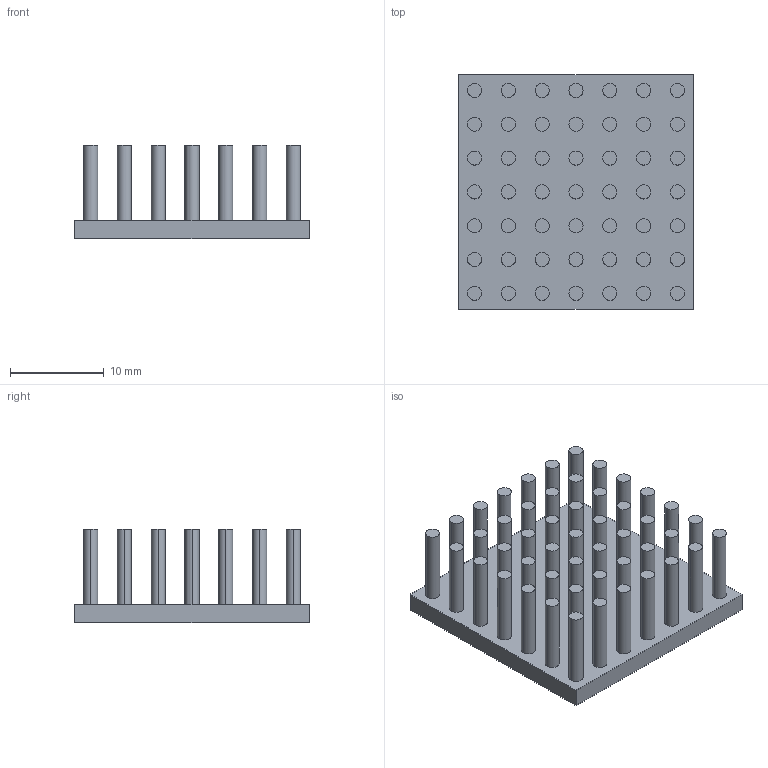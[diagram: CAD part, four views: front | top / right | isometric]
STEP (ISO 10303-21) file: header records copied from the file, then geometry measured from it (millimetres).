
FILE_DESCRIPTION (( 'STEP AP214' ), '1' );
FILE_NAME ('PB25-25-10-AL.STEP', '2014-01-09T13:42:59', ( '' ), ( '' ), 'SwSTEP 2.0', 'SolidWorks 2013', '' );
FILE_SCHEMA (( 'AUTOMOTIVE_DESIGN' ));
Length unit declared in the file: millimetre
Products named in the file (1): PB25-25-10-AL
Bounding box: 25 x 25 x 10 mm (x, y, z)
Volume: 1942.7 mm3; surface area: 3297.3 mm2
Topology: 1 solids, 1 shells, 153 faces, 306 edges, 204 vertices
Faces by surface type: cylinder 98, plane 55
Entity records: 4110 total; most frequent: DIRECTION 810, CARTESIAN_POINT 664, ORIENTED_EDGE 612, AXIS2_PLACEMENT_3D 350, EDGE_CURVE 306, VERTEX_POINT 204, EDGE_LOOP 202, CIRCLE 196
